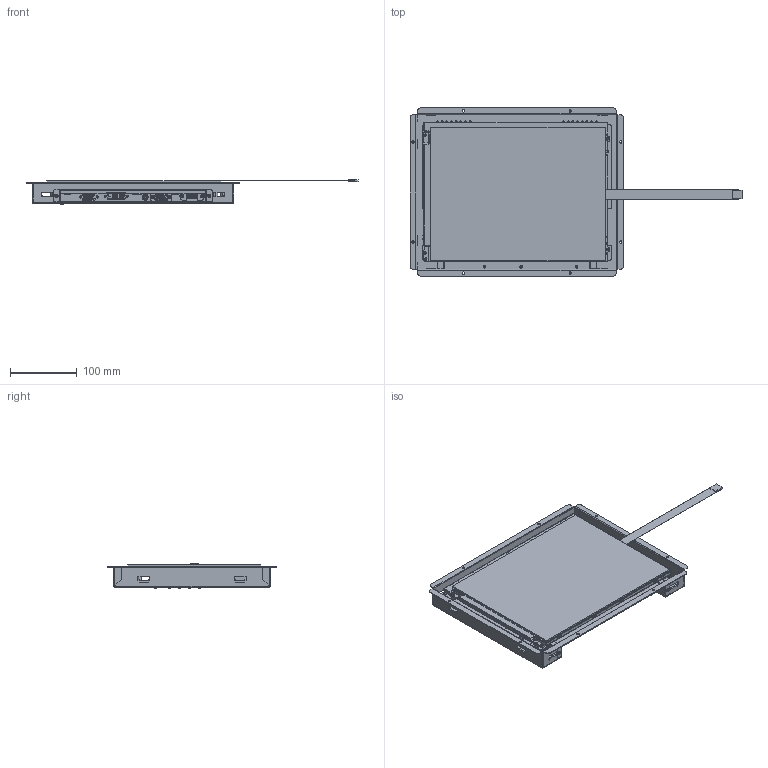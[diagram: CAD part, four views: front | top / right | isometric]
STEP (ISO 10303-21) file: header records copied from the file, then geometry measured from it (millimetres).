
FILE_DESCRIPTION (( 'STEP AP203' ), '1' );
FILE_NAME ('IDS-3112R-45SVA1E.STEP', '2014-04-25T06:14:11', ( 'ITD.MIS' ), ( '' ), 'SwSTEP 2.0', 'SolidWorks 2013', '' );
FILE_SCHEMA (( 'CONFIG_CONTROL_DESIGN' ));
Products named in the file (1): IDS-3112R-45SVA1E
Bounding box: 497.6 x 252 x 36.33 mm (x, y, z)
Surface area: 669061.4 mm2 (no closed solid volume)
Topology: 0 solids, 82 shells, 5571 faces, 15213 edges, 10130 vertices
Faces by surface type: plane 3629, cylinder 1519, cone 174, bspline 149, torus 100
Entity records: 234337 total; most frequent: CARTESIAN_POINT 94028, ORIENTED_EDGE 29167, DIRECTION 27601, EDGE_CURVE 15201, VECTOR 10387, LINE 10387, VERTEX_POINT 10130, AXIS2_PLACEMENT_3D 8607
